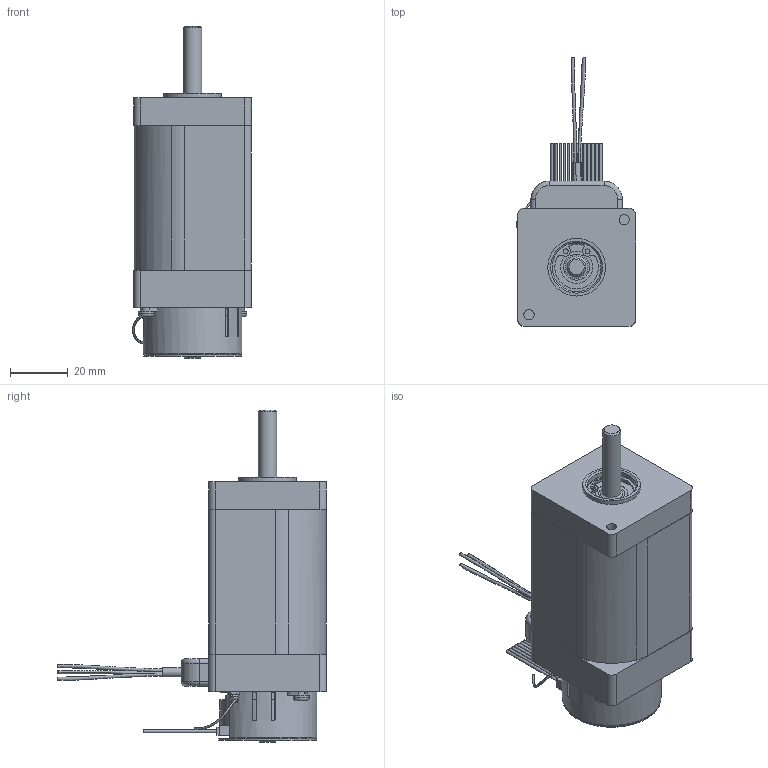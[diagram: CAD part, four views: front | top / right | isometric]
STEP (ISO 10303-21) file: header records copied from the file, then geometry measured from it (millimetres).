
FILE_DESCRIPTION((''),'2;1');
FILE_NAME('C:\CAD_work\Dummy_Modeling_Project_02-12-05\3D MODELS\BE164_FO.stp','2005-12-20T15:16:41',('jevans'),(''),'Autodesk Inventor 10','Autodesk Inventor 10','');
FILE_SCHEMA(('AUTOMOTIVE_DESIGN { 1 0 10303 214 1 1 1 1 }'));
Length unit declared in the file: inch
Products named in the file (1): BE16_FO
Bounding box: 41.3 x 93.29 x 115.19 mm (x, y, z)
Volume: 122440.8 mm3; surface area: 28106.5 mm2
Topology: 1 solids, 2 shells, 324 faces, 792 edges, 502 vertices
Faces by surface type: plane 194, cylinder 97, bspline 14, cone 11, torus 8
Full cylindrical faces by diameter (mm): 1.016 x13, 1.575 x1, 1.7 x2, 2.388 x1, 3.175 x1, 6.35 x2, 8.992 x1, 10.16 x1, 10.312 x1, 11.176 x2, 15.697 x1, 17 x1, 17.005 x2, 18.009 x1, 19.558 x1, 20.015 x1, 32.995 x1, 34.036 x1, 37.211 x1
Entity records: 11218 total; most frequent: CARTESIAN_POINT 3772, DIRECTION 1539, ORIENTED_EDGE 1478, EDGE_CURVE 739, AXIS2_PLACEMENT_3D 582, VERTEX_POINT 494, EDGE_LOOP 422, VECTOR 375
